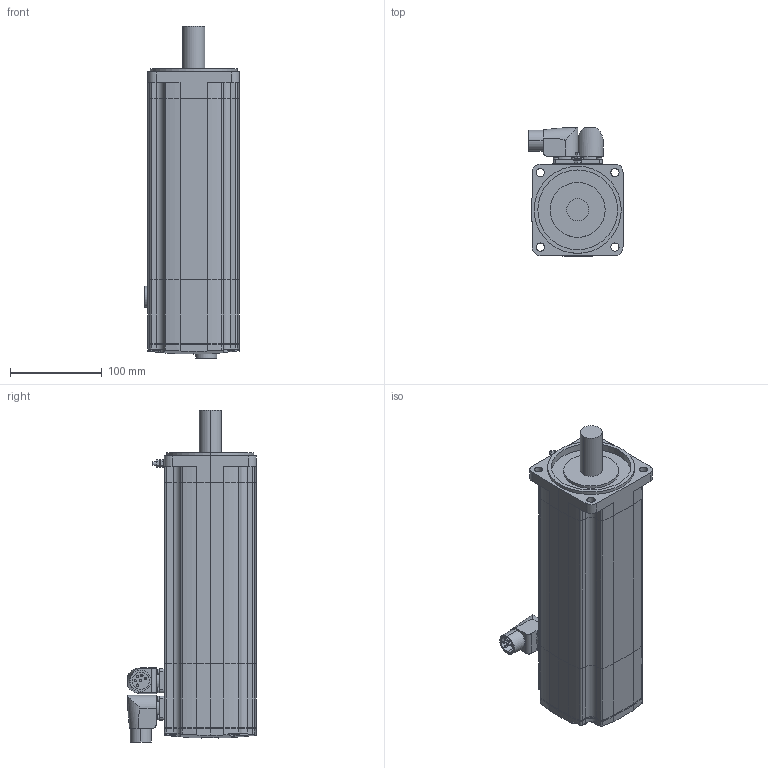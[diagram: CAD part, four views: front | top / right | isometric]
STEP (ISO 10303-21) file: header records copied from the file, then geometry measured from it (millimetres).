
FILE_DESCRIPTION (( 'STEP AP214' ), '1' );
FILE_NAME ('SH31004x0xF2100.STEP', '2013-11-29T09:13:08', ( 'Windows User' ), ( 'Schneider-Electric' ), 'SwSTEP 2.0', 'SolidWorks 2010', '' );
FILE_SCHEMA (( 'AUTOMOTIVE_DESIGN' ));
Length unit declared in the file: millimetre
Products named in the file (9): 1-100005292_DECKEL SH3-100X-X_VM0_Deckel SH3-100x; 1-100010978_K-FLACHDICHTUNG BMH-MH3-100_000; 1-100008863_LAGERSCHILD-SH3-100X-F_VM0_Lagerschild-SH3-100x-F; 1-100010762_GEHÄUSE SH3100X_VM0_Gehäuse SH3-1004-A und F; 1-100010770_K-Flansch SH3-100X_VM0_Flansch SH3-1004 mit Welle ohne Passfeder; 1-100011011_K-ERDUNGSBOLZEN M4_000; K-POWER-CONINVERS-ABGEWIN_POWER-CONINVERS-ABGEWINKELT_000_mit Bremse; K-ENCODER-CONINVERS-ABGEW_ENCODER-CONINVERS-ABGEWINKELT_000_Single- MultiTurn; SH31004x0xF2100
Assembly tree (8 placements, depth 2):
  SH31004x0xF2100
    1-100010978_K-FLACHDICHTUNG BMH-MH3-100_000
    1-100005292_DECKEL SH3-100X-X_VM0_Deckel SH3-100x
    1-100008863_LAGERSCHILD-SH3-100X-F_VM0_Lagerschild-SH3-100x-F
    1-100010762_GEHÄUSE SH3100X_VM0_Gehäuse SH3-1004-A und F
    1-100010770_K-Flansch SH3-100X_VM0_Flansch SH3-1004 mit Welle ohne Passfeder
    1-100011011_K-ERDUNGSBOLZEN M4_000
    K-POWER-CONINVERS-ABGEWIN_POWER-CONINVERS-ABGEWINKELT_000_mit Bremse
    K-ENCODER-CONINVERS-ABGEW_ENCODER-CONINVERS-ABGEWINKELT_000_Single- MultiTurn
Bounding box: 103.65 x 139.9 x 362.25 mm (x, y, z)
Volume: 2745928.1 mm3; surface area: 226881.3 mm2
Topology: 8 solids, 8 shells, 489 faces, 1217 edges, 798 vertices
Faces by surface type: cylinder 253, plane 212, torus 16, sphere 4, bspline 4
Entity records: 16200 total; most frequent: CARTESIAN_POINT 3729, DIRECTION 2712, ORIENTED_EDGE 2434, EDGE_CURVE 1217, AXIS2_PLACEMENT_3D 1049, VERTEX_POINT 798, VECTOR 614, LINE 614
